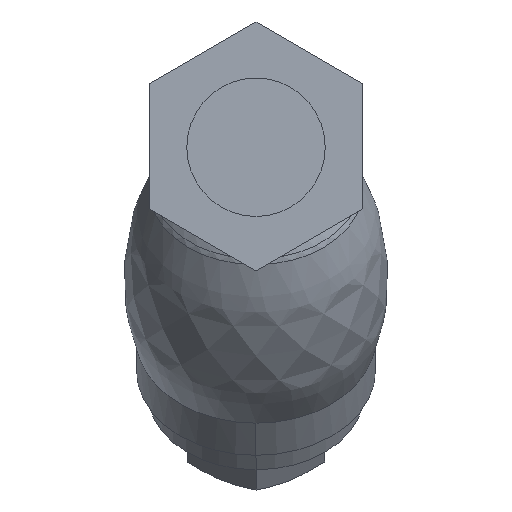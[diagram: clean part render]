
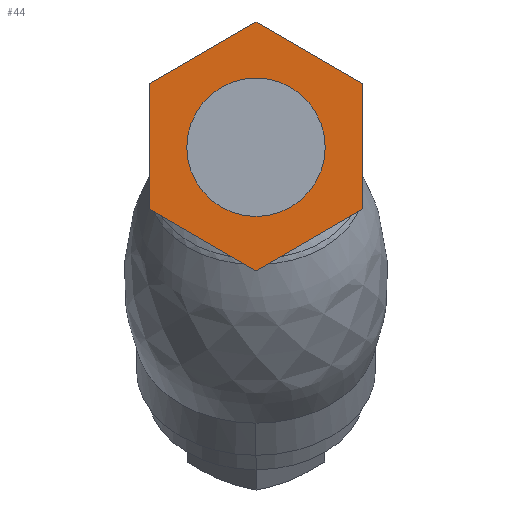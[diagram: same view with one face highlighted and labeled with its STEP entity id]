
A CAD part, left-side view. The second image highlights one B-rep face of the part: STEP entity #44.
In plain terms, the highlighted planar face has unit normal (-1, 0, 0).
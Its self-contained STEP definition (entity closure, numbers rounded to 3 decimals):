
#44=ADVANCED_FACE('',(#137,#138),#136,.T.);
#136=PLANE('',#741);
#137=FACE_OUTER_BOUND('',#742,.T.);
#138=FACE_BOUND('',#743,.T.);
#738=CARTESIAN_POINT('',(0.,-20.4,-23.584));
#739=DIRECTION('',(-1.,0.,0.));
#740=DIRECTION('',(0.,0.,1.));
#741=AXIS2_PLACEMENT_3D('',#738,#739,#740);
#742=EDGE_LOOP('',(#1140,#1141,#1142,#1143,#1144,#1145));
#743=EDGE_LOOP('',(#1146,#1147));
#1140=ORIENTED_EDGE('',*,*,#1417,.F.);
#1141=ORIENTED_EDGE('',*,*,#1418,.F.);
#1142=ORIENTED_EDGE('',*,*,#1419,.F.);
#1143=ORIENTED_EDGE('',*,*,#1420,.F.);
#1144=ORIENTED_EDGE('',*,*,#1421,.F.);
#1145=ORIENTED_EDGE('',*,*,#1422,.F.);
#1146=ORIENTED_EDGE('',*,*,#1423,.T.);
#1147=ORIENTED_EDGE('',*,*,#1424,.T.);
#1417=EDGE_CURVE('',#1739,#1740,#1741,.T.);
#1418=EDGE_CURVE('',#1747,#1739,#1748,.T.);
#1419=EDGE_CURVE('',#1754,#1747,#1755,.T.);
#1420=EDGE_CURVE('',#1761,#1754,#1762,.T.);
#1421=EDGE_CURVE('',#1768,#1761,#1769,.T.);
#1422=EDGE_CURVE('',#1740,#1768,#1775,.T.);
#1423=EDGE_CURVE('',#1781,#1782,#1783,.T.);
#1424=EDGE_CURVE('',#1782,#1781,#1789,.T.);
#1739=VERTEX_POINT('',#2770);
#1740=VERTEX_POINT('',#2771);
#1741=LINE('',#2772,#2773);
#1747=VERTEX_POINT('',#2775);
#1748=LINE('',#2776,#2777);
#1754=VERTEX_POINT('',#2779);
#1755=LINE('',#2780,#2781);
#1761=VERTEX_POINT('',#2783);
#1762=LINE('',#2784,#2785);
#1768=VERTEX_POINT('',#2787);
#1769=LINE('',#2788,#2789);
#1775=LINE('',#2791,#2792);
#1781=VERTEX_POINT('',#2794);
#1782=VERTEX_POINT('',#2795);
#1783=CIRCLE('',#2799,11.);
#1789=CIRCLE('',#2803,11.);
#2770=CARTESIAN_POINT('',(0.,0.,19.915));
#2771=CARTESIAN_POINT('',(0.,-17.,10.1));
#2772=CARTESIAN_POINT('',(0.,0.,19.915));
#2773=VECTOR('',#2774,19.63);
#2774=DIRECTION('',(0.,-0.866,-0.5));
#2775=CARTESIAN_POINT('',(0.,17.,10.1));
#2776=CARTESIAN_POINT('',(0.,17.,10.1));
#2777=VECTOR('',#2778,19.63);
#2778=DIRECTION('',(0.,-0.866,0.5));
#2779=CARTESIAN_POINT('',(0.,17.,-9.815));
#2780=CARTESIAN_POINT('',(0.,17.,-9.815));
#2781=VECTOR('',#2782,19.915);
#2782=DIRECTION('',(0.,0.,1.));
#2783=CARTESIAN_POINT('',(0.,0.,-19.63));
#2784=CARTESIAN_POINT('',(0.,0.,-19.63));
#2785=VECTOR('',#2786,19.63);
#2786=DIRECTION('',(0.,0.866,0.5));
#2787=CARTESIAN_POINT('',(0.,-17.,-9.815));
#2788=CARTESIAN_POINT('',(0.,-17.,-9.815));
#2789=VECTOR('',#2790,19.63);
#2790=DIRECTION('',(0.,0.866,-0.5));
#2791=CARTESIAN_POINT('',(0.,-17.,10.1));
#2792=VECTOR('',#2793,19.915);
#2793=DIRECTION('',(0.,0.,-1.));
#2794=CARTESIAN_POINT('',(0.,0.,11.));
#2795=CARTESIAN_POINT('',(0.,0.,-11.));
#2796=CARTESIAN_POINT('',(0.,0.,0.));
#2797=DIRECTION('',(1.,0.,0.));
#2798=DIRECTION('',(0.,0.,1.));
#2799=AXIS2_PLACEMENT_3D('',#2796,#2797,#2798);
#2800=CARTESIAN_POINT('',(0.,0.,0.));
#2801=DIRECTION('',(1.,0.,0.));
#2802=DIRECTION('',(0.,0.,1.));
#2803=AXIS2_PLACEMENT_3D('',#2800,#2801,#2802);
